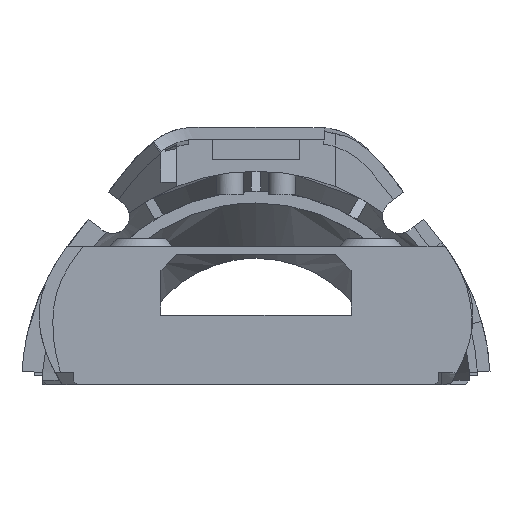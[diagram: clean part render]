
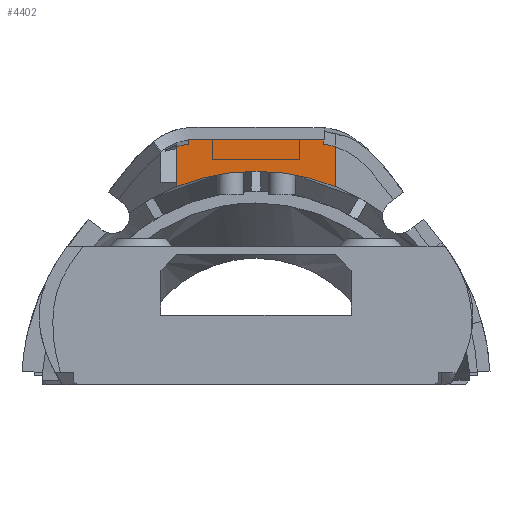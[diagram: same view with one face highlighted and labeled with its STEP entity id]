
A CAD part, front view. The second image highlights one B-rep face of the part: STEP entity #4402.
In plain terms, the highlighted planar face has unit normal (0, -1, 0).
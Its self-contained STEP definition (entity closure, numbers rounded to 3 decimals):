
#118 = VERTEX_POINT ( 'NONE', #22676 ) ;
#622 = CARTESIAN_POINT ( 'NONE',  ( -239.726, -52.597, 25.078 ) ) ;
#1383 = CARTESIAN_POINT ( 'NONE',  ( -239.726, -52.597, 25.624 ) ) ;
#1454 = AXIS2_PLACEMENT_3D ( 'NONE', #16083, #20829, #18664 ) ;
#1810 = CARTESIAN_POINT ( 'NONE',  ( -238.226, -52.597, 30.416 ) ) ;
#1885 = CARTESIAN_POINT ( 'NONE',  ( -219.726, -52.597, 30.058 ) ) ;
#2508 = CARTESIAN_POINT ( 'NONE',  ( -238.226, -52.597, 30.416 ) ) ;
#3230 = VERTEX_POINT ( 'NONE', #22395 ) ;
#3468 = FACE_OUTER_BOUND ( 'NONE', #21172, .T. ) ;
#3638 = B_SPLINE_CURVE_WITH_KNOTS ( 'NONE', 1,
 ( #1383, #16728 ),
 .UNSPECIFIED., .F., .F.,
 ( 2, 2 ),
 ( -4.434, 0. ),
 .UNSPECIFIED. ) ;
#3976 = CARTESIAN_POINT ( 'NONE',  ( -239.254, -52.597, 30.232 ) ) ;
#4165 = CARTESIAN_POINT ( 'NONE',  ( -229.726, -52.597, 26.998 ) ) ;
#4402 = ADVANCED_FACE ( 'NONE', ( #3468 ), #20687, .T. ) ;
#5237 = ORIENTED_EDGE ( 'NONE', *, *, #7756, .F. ) ;
#5321 = VERTEX_POINT ( 'NONE', #22018 ) ;
#5903 = EDGE_CURVE ( 'NONE', #118, #3230, #11773, .T. ) ;
#6110 = CARTESIAN_POINT ( 'NONE',  ( -238.226, -52.597, 30.416 ) ) ;
#6172 = EDGE_CURVE ( 'NONE', #9668, #118, #20722, .T. ) ;
#6182 = B_SPLINE_CURVE_WITH_KNOTS ( 'NONE', 3,
 ( #10716, #21978, #15060, #1885 ),
 .UNSPECIFIED., .F., .F.,
 ( 4, 4 ),
 ( -1.549, 0. ),
 .UNSPECIFIED. ) ;
#7756 = EDGE_CURVE ( 'NONE', #17077, #10188, #3638, .T. ) ;
#7788 = ORIENTED_EDGE ( 'NONE', *, *, #11396, .T. ) ;
#8016 =( BOUNDED_CURVE ( )  B_SPLINE_CURVE ( 2, ( #21807, #23979, #4165 ),
 .UNSPECIFIED., .F., .F. ) 
 B_SPLINE_CURVE_WITH_KNOTS ( ( 3, 3 ),
 ( -10.244, 0. ),
 .UNSPECIFIED. ) 
 CURVE ( )  GEOMETRIC_REPRESENTATION_ITEM ( )  RATIONAL_B_SPLINE_CURVE ( ( 1., 0.982, 1. ) ) 
 REPRESENTATION_ITEM ( '' )  );
#8187 = CARTESIAN_POINT ( 'NONE',  ( -221.226, -52.597, 30.95 ) ) ;
#9668 = VERTEX_POINT ( 'NONE', #2508 ) ;
#10188 = VERTEX_POINT ( 'NONE', #28614 ) ;
#10330 = CARTESIAN_POINT ( 'NONE',  ( -239.726, -52.597, 25.624 ) ) ;
#10358 = CARTESIAN_POINT ( 'NONE',  ( -238.226, -52.597, 30.95 ) ) ;
#10579 = VERTEX_POINT ( 'NONE', #622 ) ;
#10716 = CARTESIAN_POINT ( 'NONE',  ( -221.226, -52.597, 30.416 ) ) ;
#10760 = ORIENTED_EDGE ( 'NONE', *, *, #6172, .F. ) ;
#10775 = CARTESIAN_POINT ( 'NONE',  ( -219.726, -52.597, 25.078 ) ) ;
#11348 = CARTESIAN_POINT ( 'NONE',  ( -219.726, -52.597, 30.058 ) ) ;
#11396 = EDGE_CURVE ( 'NONE', #25799, #3230, #13012, .T. ) ;
#11763 = ORIENTED_EDGE ( 'NONE', *, *, #5903, .F. ) ;
#11773 = B_SPLINE_CURVE_WITH_KNOTS ( 'NONE', 1,
 ( #10358, #8187 ),
 .UNSPECIFIED., .F., .F.,
 ( 2, 2 ),
 ( 0., 17. ),
 .UNSPECIFIED. ) ;
#12108 = CARTESIAN_POINT ( 'NONE',  ( -219.726, -52.597, 30.058 ) ) ;
#12503 = CARTESIAN_POINT ( 'NONE',  ( -239.726, -52.597, 25.078 ) ) ;
#13012 = B_SPLINE_CURVE_WITH_KNOTS ( 'NONE', 1,
 ( #20601, #23729 ),
 .UNSPECIFIED., .F., .F.,
 ( 2, 2 ),
 ( 0., 0.534 ),
 .UNSPECIFIED. ) ;
#14609 = ORIENTED_EDGE ( 'NONE', *, *, #27436, .T. ) ;
#14938 = CARTESIAN_POINT ( 'NONE',  ( -238.226, -52.597, 30.95 ) ) ;
#15060 = CARTESIAN_POINT ( 'NONE',  ( -220.197, -52.597, 30.233 ) ) ;
#15766 = ORIENTED_EDGE ( 'NONE', *, *, #27644, .T. ) ;
#16083 = CARTESIAN_POINT ( 'NONE',  ( -241.726, -52.597, 31.537 ) ) ;
#16694 = CARTESIAN_POINT ( 'NONE',  ( -239.726, -52.597, 25.624 ) ) ;
#16728 = CARTESIAN_POINT ( 'NONE',  ( -239.726, -52.597, 30.058 ) ) ;
#17077 = VERTEX_POINT ( 'NONE', #10330 ) ;
#17087 = EDGE_CURVE ( 'NONE', #10579, #17077, #26454, .T. ) ;
#17393 = EDGE_CURVE ( 'NONE', #21592, #5321, #27360, .T. ) ;
#18664 = DIRECTION ( 'NONE',  ( 0., 0., -1. ) ) ;
#19059 = ORIENTED_EDGE ( 'NONE', *, *, #17393, .F. ) ;
#19867 = B_SPLINE_CURVE_WITH_KNOTS ( 'NONE', 3,
 ( #1810, #23781, #3976, #21617 ),
 .UNSPECIFIED., .F., .F.,
 ( 4, 4 ),
 ( 0., 1. ),
 .UNSPECIFIED. ) ;
#20351 = ORIENTED_EDGE ( 'NONE', *, *, #22934, .F. ) ;
#20601 = CARTESIAN_POINT ( 'NONE',  ( -221.226, -52.597, 30.416 ) ) ;
#20687 = PLANE ( 'NONE',  #1454 ) ;
#20722 = B_SPLINE_CURVE_WITH_KNOTS ( 'NONE', 1,
 ( #6110, #14938 ),
 .UNSPECIFIED., .F., .F.,
 ( 2, 2 ),
 ( 0., 0.534 ),
 .UNSPECIFIED. ) ;
#20829 = DIRECTION ( 'NONE',  ( 0., -1., 0. ) ) ;
#21079 = ORIENTED_EDGE ( 'NONE', *, *, #24282, .T. ) ;
#21172 = EDGE_LOOP ( 'NONE', ( #11763, #10760, #14609, #5237, #27247, #21079, #19059, #15766, #20351, #7788 ) ) ;
#21592 = VERTEX_POINT ( 'NONE', #25475 ) ;
#21617 = CARTESIAN_POINT ( 'NONE',  ( -239.726, -52.597, 30.058 ) ) ;
#21807 = CARTESIAN_POINT ( 'NONE',  ( -239.726, -52.597, 25.078 ) ) ;
#21978 = CARTESIAN_POINT ( 'NONE',  ( -220.697, -52.597, 30.352 ) ) ;
#22018 = CARTESIAN_POINT ( 'NONE',  ( -229.726, -52.597, 26.998 ) ) ;
#22395 = CARTESIAN_POINT ( 'NONE',  ( -221.226, -52.597, 30.95 ) ) ;
#22676 = CARTESIAN_POINT ( 'NONE',  ( -238.226, -52.597, 30.95 ) ) ;
#22908 = B_SPLINE_CURVE_WITH_KNOTS ( 'NONE', 1,
 ( #26674, #11348 ),
 .UNSPECIFIED., .F., .F.,
 ( 2, 2 ),
 ( -4.981, 0. ),
 .UNSPECIFIED. ) ;
#22934 = EDGE_CURVE ( 'NONE', #25799, #26002, #6182, .T. ) ;
#23729 = CARTESIAN_POINT ( 'NONE',  ( -221.226, -52.597, 30.95 ) ) ;
#23781 = CARTESIAN_POINT ( 'NONE',  ( -238.754, -52.597, 30.352 ) ) ;
#23842 = CARTESIAN_POINT ( 'NONE',  ( -221.226, -52.597, 30.416 ) ) ;
#23979 = CARTESIAN_POINT ( 'NONE',  ( -234.91, -52.597, 26.998 ) ) ;
#24282 = EDGE_CURVE ( 'NONE', #10579, #5321, #8016, .T. ) ;
#25475 = CARTESIAN_POINT ( 'NONE',  ( -219.726, -52.597, 25.078 ) ) ;
#25799 = VERTEX_POINT ( 'NONE', #23842 ) ;
#26002 = VERTEX_POINT ( 'NONE', #12108 ) ;
#26454 = B_SPLINE_CURVE_WITH_KNOTS ( 'NONE', 1,
 ( #12503, #16694 ),
 .UNSPECIFIED., .F., .F.,
 ( 2, 2 ),
 ( -0.547, 0. ),
 .UNSPECIFIED. ) ;
#26658 = CARTESIAN_POINT ( 'NONE',  ( -229.726, -52.597, 26.998 ) ) ;
#26674 = CARTESIAN_POINT ( 'NONE',  ( -219.726, -52.597, 25.078 ) ) ;
#27247 = ORIENTED_EDGE ( 'NONE', *, *, #17087, .F. ) ;
#27360 =( BOUNDED_CURVE ( )  B_SPLINE_CURVE ( 2, ( #10775, #28548, #26658 ),
 .UNSPECIFIED., .F., .F. ) 
 B_SPLINE_CURVE_WITH_KNOTS ( ( 3, 3 ),
 ( 0., 10.244 ),
 .UNSPECIFIED. ) 
 CURVE ( )  GEOMETRIC_REPRESENTATION_ITEM ( )  RATIONAL_B_SPLINE_CURVE ( ( 1., 0.982, 1. ) ) 
 REPRESENTATION_ITEM ( '' )  );
#27436 = EDGE_CURVE ( 'NONE', #9668, #10188, #19867, .T. ) ;
#27644 = EDGE_CURVE ( 'NONE', #21592, #26002, #22908, .T. ) ;
#28548 = CARTESIAN_POINT ( 'NONE',  ( -224.541, -52.597, 26.998 ) ) ;
#28614 = CARTESIAN_POINT ( 'NONE',  ( -239.726, -52.597, 30.058 ) ) ;
